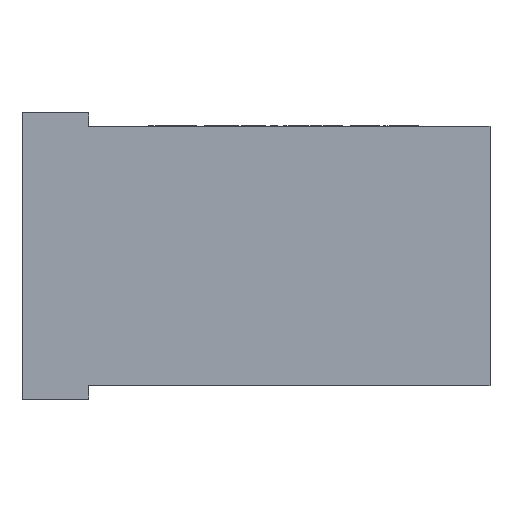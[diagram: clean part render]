
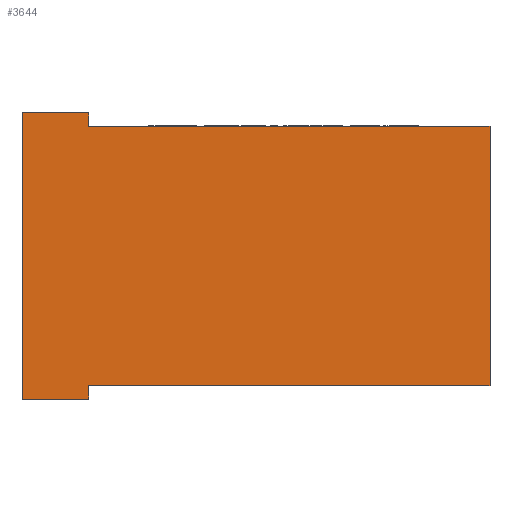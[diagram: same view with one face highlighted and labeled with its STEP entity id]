
A CAD part, left-side view. The second image highlights one B-rep face of the part: STEP entity #3644.
In plain terms, the highlighted planar face has unit normal (-1, 0, 0).
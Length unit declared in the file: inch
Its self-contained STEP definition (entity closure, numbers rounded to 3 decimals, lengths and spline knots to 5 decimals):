
#247=FACE_OUTER_BOUND('',#457,.T.);
#457=EDGE_LOOP('',(#3095,#3096,#3097,#3098,#3099,#3100,#3101,#3102));
#879=LINE('',#6331,#1265);
#896=LINE('',#6367,#1282);
#922=LINE('',#6417,#1308);
#924=LINE('',#6421,#1310);
#925=LINE('',#6423,#1311);
#926=LINE('',#6425,#1312);
#927=LINE('',#6427,#1313);
#928=LINE('',#6428,#1314);
#1265=VECTOR('',#4225,0.3937);
#1282=VECTOR('',#4250,0.3937);
#1308=VECTOR('',#4298,0.3937);
#1310=VECTOR('',#4302,0.3937);
#1311=VECTOR('',#4303,0.3937);
#1312=VECTOR('',#4304,0.3937);
#1313=VECTOR('',#4305,0.3937);
#1314=VECTOR('',#4306,0.3937);
#1661=VERTEX_POINT('',#6328);
#1662=VERTEX_POINT('',#6330);
#1677=VERTEX_POINT('',#6366);
#1690=VERTEX_POINT('',#6416);
#1691=VERTEX_POINT('',#6420);
#1692=VERTEX_POINT('',#6422);
#1693=VERTEX_POINT('',#6424);
#1694=VERTEX_POINT('',#6426);
#2129=EDGE_CURVE('',#1662,#1661,#879,.T.);
#2146=EDGE_CURVE('',#1677,#1662,#896,.T.);
#2172=EDGE_CURVE('',#1690,#1677,#922,.T.);
#2174=EDGE_CURVE('',#1661,#1691,#924,.T.);
#2175=EDGE_CURVE('',#1691,#1692,#925,.T.);
#2176=EDGE_CURVE('',#1692,#1693,#926,.T.);
#2177=EDGE_CURVE('',#1693,#1694,#927,.T.);
#2178=EDGE_CURVE('',#1694,#1690,#928,.T.);
#3095=ORIENTED_EDGE('',*,*,#2129,.T.);
#3096=ORIENTED_EDGE('',*,*,#2174,.T.);
#3097=ORIENTED_EDGE('',*,*,#2175,.T.);
#3098=ORIENTED_EDGE('',*,*,#2176,.T.);
#3099=ORIENTED_EDGE('',*,*,#2177,.T.);
#3100=ORIENTED_EDGE('',*,*,#2178,.T.);
#3101=ORIENTED_EDGE('',*,*,#2172,.T.);
#3102=ORIENTED_EDGE('',*,*,#2146,.T.);
#3398=PLANE('',#3799);
#3644=ADVANCED_FACE('',(#247),#3398,.T.);
#3799=AXIS2_PLACEMENT_3D('',#6419,#4300,#4301);
#4225=DIRECTION('',(0.,1.,0.));
#4250=DIRECTION('',(0.,0.,1.));
#4298=DIRECTION('',(0.,-1.,0.));
#4300=DIRECTION('center_axis',(-1.,0.,0.));
#4301=DIRECTION('ref_axis',(0.,0.,1.));
#4302=DIRECTION('',(0.,0.,1.));
#4303=DIRECTION('',(0.,1.,0.));
#4304=DIRECTION('',(0.,0.,-1.));
#4305=DIRECTION('',(0.,-1.,0.));
#4306=DIRECTION('',(0.,0.,1.));
#6328=CARTESIAN_POINT('',(-0.12205,0.29528,0.19094));
#6330=CARTESIAN_POINT('',(-0.12205,-0.29528,0.19094));
#6331=CARTESIAN_POINT('',(-0.12205,0.29528,0.19094));
#6366=CARTESIAN_POINT('',(-0.12205,-0.29528,-0.19094));
#6367=CARTESIAN_POINT('',(-0.12205,-0.29528,0.19094));
#6416=CARTESIAN_POINT('',(-0.12205,0.29528,-0.19094));
#6417=CARTESIAN_POINT('',(-0.12205,-0.29528,-0.19094));
#6419=CARTESIAN_POINT('Origin',(-0.12205,0.,0.));
#6420=CARTESIAN_POINT('',(-0.12205,0.29528,0.21063));
#6421=CARTESIAN_POINT('',(-0.12205,0.29528,0.21063));
#6422=CARTESIAN_POINT('',(-0.12205,0.3937,0.21063));
#6423=CARTESIAN_POINT('',(-0.12205,0.3937,0.21063));
#6424=CARTESIAN_POINT('',(-0.12205,0.3937,-0.21063));
#6425=CARTESIAN_POINT('',(-0.12205,0.3937,-0.21063));
#6426=CARTESIAN_POINT('',(-0.12205,0.29528,-0.21063));
#6427=CARTESIAN_POINT('',(-0.12205,0.29528,-0.21063));
#6428=CARTESIAN_POINT('',(-0.12205,0.29528,0.21063));
